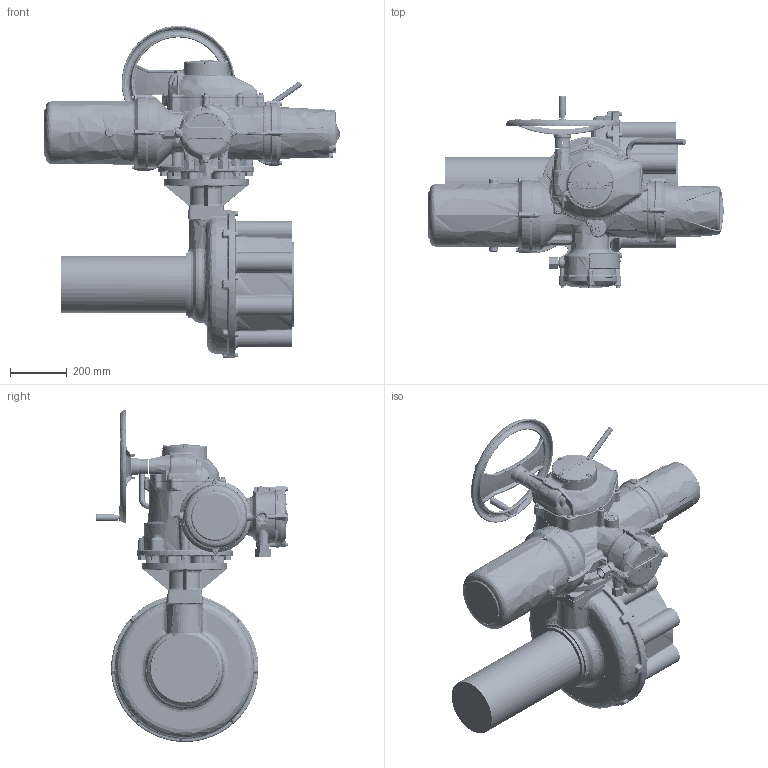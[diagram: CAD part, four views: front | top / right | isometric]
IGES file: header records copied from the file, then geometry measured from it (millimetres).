
Start section: C
Global section: file name: II5-91-SHWIB14STD-1.igs; native system: By Siemens PLM Incorporated; preprocessor: XPlus GENERIC/IGES 18.0.17; author: Author; organization: Title; date: 20160624.102527; units: millimetre
Bounding box: 1041.8 x 680.05 x 1171.87 mm (x, y, z)
Surface area: 3314981.3 mm2 (no closed solid volume)
Topology: 0 solids, 0 shells, 9056 faces, 49536 edges, 49077 vertices
Faces by surface type: bspline 9056
